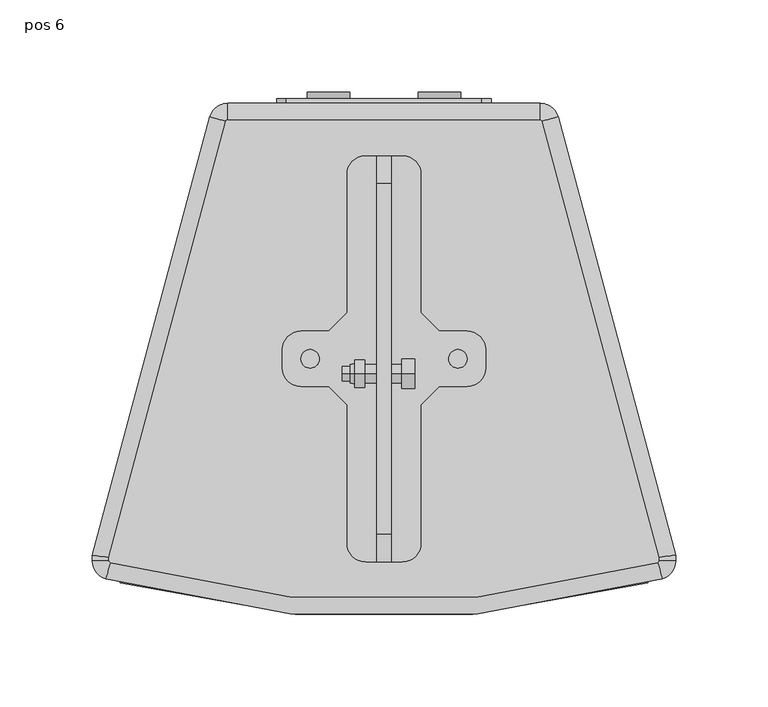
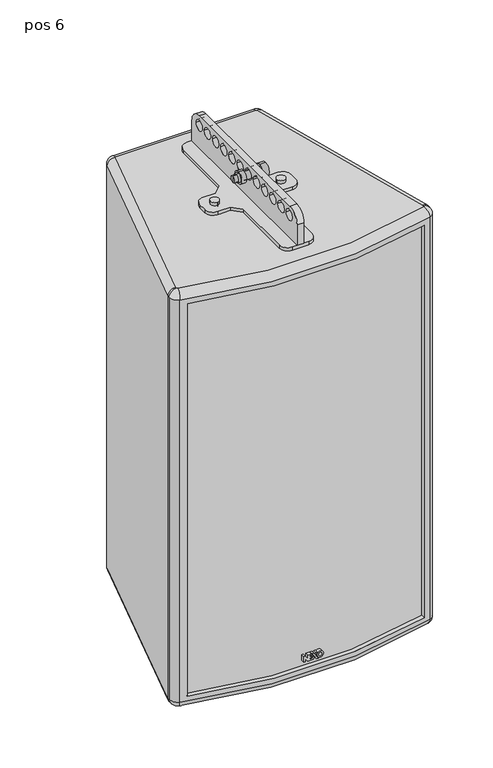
"""IFC4 building model written with IfcOpenShell, lengths in millimetres: proxy geometry, ePS10-WM330-BUMP-WVM : pos 6."""

from ifc_helpers import new_model, si_unit, point, frame, frame_2d, origin, place, context, project, spatial, polyline, circle_curve, ellipse_curve, trimmed, segment, composite_curve, outline, extrude, source, transform, mapped, element, save
from ifc_brep_helpers import plane_surface, cylinder_surface, revolved_surface, advanced_brep


def pos_6_8bae4bcd(model_context):
    return source(origin(), model_context, "Body", "SolidModel", [
        extrude(outline(composite_curve([segment(trimmed(circle_curve(frame_2d((-40.0511607, -316.4740772)), 5.0), [point((-45.0511607, -316.4740772))], [point((-35.0511607, -316.4740772))], False, "CARTESIAN"), True, "CONTINUOUS"), segment(trimmed(circle_curve(frame_2d((-40.0511607, -316.4740772)), 5.0), [point((-35.0511607, -316.4740772))], [point((-45.0511607, -316.4740772))], False, "CARTESIAN"), True, "CONTINUOUS")], self_intersect=False)), frame((0.0, 0.0, -97.9639301), z_axis=(0.0, 0.0, 1.0), x_axis=(1.0, 0.0, 0.0)), (0.0, 0.0, 1.0), 4.0),
        extrude(outline(composite_curve([segment(trimmed(circle_curve(frame_2d((40.0511607, -316.4740772)), 5.0), [point((45.0511607, -316.4740772))], [point((35.0511607, -316.4740772))], False, "CARTESIAN"), True, "CONTINUOUS"), segment(trimmed(circle_curve(frame_2d((40.0511607, -316.4740772)), 5.0), [point((35.0511607, -316.4740772))], [point((45.0511607, -316.4740772))], False, "CARTESIAN"), True, "CONTINUOUS")], self_intersect=False)), frame((0.0, 0.0, -97.9639301), z_axis=(0.0, 0.0, 1.0), x_axis=(1.0, 0.0, 0.0)), (0.0, 0.0, 1.0), 4.0),
        extrude(outline(composite_curve([segment(trimmed(circle_curve(frame_2d((-221.4740772, -71.9639301)), 15.0), [point((-221.4740772, -56.9639301))], [point((-206.4740772, -71.9639301))], False, "CARTESIAN"), True, "CONTINUOUS"), segment(polyline([(-206.4740772, -71.9639301), (-206.4740772, -97.9639301), (-426.4740772, -97.9639301), (-426.4740772, -71.9639301)]), True, "CONTINUOUS"), segment(trimmed(circle_curve(frame_2d((-411.4740772, -71.9639301)), 15.0), [point((-426.4740772, -71.9639301))], [point((-411.4740772, -56.9639301))], False, "CARTESIAN"), True, "CONTINUOUS"), segment(polyline([(-411.4740772, -56.9639301), (-221.4740772, -56.9639301)]), True, "CONTINUOUS")], self_intersect=False), holes=[composite_curve([segment(trimmed(circle_curve(frame_2d((-324.5, -68.9639301)), 6.5), [point((-331.0, -68.9639301))], [point((-318.0, -68.9639301))], True, "CARTESIAN"), True, "CONTINUOUS"), segment(trimmed(circle_curve(frame_2d((-324.5, -68.9639301)), 6.5), [point((-318.0, -68.9639301))], [point((-331.0, -68.9639301))], True, "CARTESIAN"), True, "CONTINUOUS")], self_intersect=False), composite_curve([segment(trimmed(circle_curve(frame_2d((-341.578125, -68.9639301)), 6.5), [point((-348.078125, -68.9639301))], [point((-335.078125, -68.9639301))], True, "CARTESIAN"), True, "CONTINUOUS"), segment(trimmed(circle_curve(frame_2d((-341.578125, -68.9639301)), 6.5), [point((-335.078125, -68.9639301))], [point((-348.078125, -68.9639301))], True, "CARTESIAN"), True, "CONTINUOUS")], self_intersect=False), composite_curve([segment(trimmed(circle_curve(frame_2d((-358.65625, -68.9639301)), 6.5), [point((-365.15625, -68.9639301))], [point((-352.15625, -68.9639301))], True, "CARTESIAN"), True, "CONTINUOUS"), segment(trimmed(circle_curve(frame_2d((-358.65625, -68.9639301)), 6.5), [point((-352.15625, -68.9639301))], [point((-365.15625, -68.9639301))], True, "CARTESIAN"), True, "CONTINUOUS")], self_intersect=False), composite_curve([segment(trimmed(circle_curve(frame_2d((-375.734375, -68.9639301)), 6.5), [point((-382.234375, -68.9639301))], [point((-369.234375, -68.9639301))], True, "CARTESIAN"), True, "CONTINUOUS"), segment(trimmed(circle_curve(frame_2d((-375.734375, -68.9639301)), 6.5), [point((-369.234375, -68.9639301))], [point((-382.234375, -68.9639301))], True, "CARTESIAN"), True, "CONTINUOUS")], self_intersect=False), composite_curve([segment(trimmed(circle_curve(frame_2d((-392.8125, -68.9639301)), 6.5), [point((-399.3125, -68.9639301))], [point((-386.3125, -68.9639301))], True, "CARTESIAN"), True, "CONTINUOUS"), segment(trimmed(circle_curve(frame_2d((-392.8125, -68.9639301)), 6.5), [point((-386.3125, -68.9639301))], [point((-399.3125, -68.9639301))], True, "CARTESIAN"), True, "CONTINUOUS")], self_intersect=False), composite_curve([segment(trimmed(circle_curve(frame_2d((-409.890625, -68.9639301)), 6.5), [point((-416.390625, -68.9639301))], [point((-403.390625, -68.9639301))], True, "CARTESIAN"), True, "CONTINUOUS"), segment(trimmed(circle_curve(frame_2d((-409.890625, -68.9639301)), 6.5), [point((-403.390625, -68.9639301))], [point((-416.390625, -68.9639301))], True, "CARTESIAN"), True, "CONTINUOUS")], self_intersect=False), composite_curve([segment(trimmed(circle_curve(frame_2d((-307.3912413, -68.9639301)), 6.5), [point((-300.8912413, -68.9639301))], [point((-313.8912413, -68.9639301))], True, "CARTESIAN"), True, "CONTINUOUS"), segment(trimmed(circle_curve(frame_2d((-307.3912413, -68.9639301)), 6.5), [point((-313.8912413, -68.9639301))], [point((-300.8912413, -68.9639301))], True, "CARTESIAN"), True, "CONTINUOUS")], self_intersect=False), composite_curve([segment(trimmed(circle_curve(frame_2d((-290.3131163, -68.9639301)), 6.5), [point((-283.8131163, -68.9639301))], [point((-296.8131163, -68.9639301))], True, "CARTESIAN"), True, "CONTINUOUS"), segment(trimmed(circle_curve(frame_2d((-290.3131163, -68.9639301)), 6.5), [point((-296.8131163, -68.9639301))], [point((-283.8131163, -68.9639301))], True, "CARTESIAN"), True, "CONTINUOUS")], self_intersect=False), composite_curve([segment(trimmed(circle_curve(frame_2d((-273.2349913, -68.9639301)), 6.5), [point((-266.7349913, -68.9639301))], [point((-279.7349913, -68.9639301))], True, "CARTESIAN"), True, "CONTINUOUS"), segment(trimmed(circle_curve(frame_2d((-273.2349913, -68.9639301)), 6.5), [point((-279.7349913, -68.9639301))], [point((-266.7349913, -68.9639301))], True, "CARTESIAN"), True, "CONTINUOUS")], self_intersect=False), composite_curve([segment(trimmed(circle_curve(frame_2d((-256.1568663, -68.9639301)), 6.5), [point((-249.6568663, -68.9639301))], [point((-262.6568663, -68.9639301))], True, "CARTESIAN"), True, "CONTINUOUS"), segment(trimmed(circle_curve(frame_2d((-256.1568663, -68.9639301)), 6.5), [point((-262.6568663, -68.9639301))], [point((-249.6568663, -68.9639301))], True, "CARTESIAN"), True, "CONTINUOUS")], self_intersect=False), composite_curve([segment(trimmed(circle_curve(frame_2d((-239.0787413, -68.9639301)), 6.5), [point((-232.5787413, -68.9639301))], [point((-245.5787413, -68.9639301))], True, "CARTESIAN"), True, "CONTINUOUS"), segment(trimmed(circle_curve(frame_2d((-239.0787413, -68.9639301)), 6.5), [point((-245.5787413, -68.9639301))], [point((-232.5787413, -68.9639301))], True, "CARTESIAN"), True, "CONTINUOUS")], self_intersect=False), composite_curve([segment(trimmed(circle_curve(frame_2d((-222.0006163, -68.9639301)), 6.5), [point((-215.5006163, -68.9639301))], [point((-228.5006163, -68.9639301))], True, "CARTESIAN"), True, "CONTINUOUS"), segment(trimmed(circle_curve(frame_2d((-222.0006163, -68.9639301)), 6.5), [point((-228.5006163, -68.9639301))], [point((-215.5006163, -68.9639301))], True, "CARTESIAN"), True, "CONTINUOUS")], self_intersect=False)]), frame((-4.0, 0.0, 0.0), z_axis=(1.0, 0.0, 0.0), x_axis=(0.0, 1.0, 0.0)), (0.0, 0.0, 1.0), 8.0),
        extrude(outline(composite_curve([segment(polyline([(-20.0, -291.4740772), (-20.0, -216.4740772)]), True, "CONTINUOUS"), segment(trimmed(circle_curve(frame_2d((-10.0, -216.4740772)), 10.0), [point((-20.0, -216.4740772))], [point((-10.0, -206.4740772))], False, "CARTESIAN"), True, "CONTINUOUS"), segment(polyline([(-10.0, -206.4740772), (10.0, -206.4740772)]), True, "CONTINUOUS"), segment(trimmed(circle_curve(frame_2d((10.0, -216.4740772)), 10.0), [point((10.0, -206.4740772))], [point((20.0, -216.4740772))], False, "CARTESIAN"), True, "CONTINUOUS"), segment(polyline([(20.0, -216.4740772), (20.0, -291.4740772), (30.0, -301.4740772), (45.0, -301.4740772)]), True, "CONTINUOUS"), segment(trimmed(circle_curve(frame_2d((45.0, -311.4740772)), 10.0), [point((45.0, -301.4740772))], [point((55.0, -311.4740772))], False, "CARTESIAN"), True, "CONTINUOUS"), segment(polyline([(55.0, -311.4740772), (55.0, -321.4740772)]), True, "CONTINUOUS"), segment(trimmed(circle_curve(frame_2d((45.0, -321.4740772)), 10.0), [point((55.0, -321.4740772))], [point((45.0, -331.4740772))], False, "CARTESIAN"), True, "CONTINUOUS"), segment(polyline([(45.0, -331.4740772), (30.0, -331.4740772), (20.0, -341.4740772), (20.0, -416.4740772)]), True, "CONTINUOUS"), segment(trimmed(circle_curve(frame_2d((10.0, -416.4740772)), 10.0), [point((20.0, -416.4740772))], [point((10.0, -426.4740772))], False, "CARTESIAN"), True, "CONTINUOUS"), segment(polyline([(10.0, -426.4740772), (-10.0, -426.4740772)]), True, "CONTINUOUS"), segment(trimmed(circle_curve(frame_2d((-10.0, -416.4740772)), 10.0), [point((-10.0, -426.4740772))], [point((-20.0, -416.4740772))], False, "CARTESIAN"), True, "CONTINUOUS"), segment(polyline([(-20.0, -416.4740772), (-20.0, -341.4740772), (-30.0, -331.4740772), (-45.0, -331.4740772)]), True, "CONTINUOUS"), segment(trimmed(circle_curve(frame_2d((-45.0, -321.4740772)), 10.0), [point((-45.0, -331.4740772))], [point((-55.0, -321.4740772))], False, "CARTESIAN"), True, "CONTINUOUS"), segment(polyline([(-55.0, -321.4740772), (-55.0, -311.4740772)]), True, "CONTINUOUS"), segment(trimmed(circle_curve(frame_2d((-45.0, -311.4740772)), 10.0), [point((-55.0, -311.4740772))], [point((-45.0, -301.4740772))], False, "CARTESIAN"), True, "CONTINUOUS"), segment(polyline([(-45.0, -301.4740772), (-30.0, -301.4740772), (-20.0, -291.4740772)]), True, "CONTINUOUS")], self_intersect=False), holes=[composite_curve([segment(trimmed(circle_curve(frame_2d((-40.0102651, -316.4740772)), 3.0), [point((-43.0102651, -316.4740772))], [point((-37.0102651, -316.4740772))], True, "CARTESIAN"), True, "CONTINUOUS"), segment(trimmed(circle_curve(frame_2d((-40.0102651, -316.4740772)), 3.0), [point((-37.0102651, -316.4740772))], [point((-43.0102651, -316.4740772))], True, "CARTESIAN"), True, "CONTINUOUS")], self_intersect=False), composite_curve([segment(trimmed(circle_curve(frame_2d((40.0102651, -316.4740772)), 3.0), [point((43.0102651, -316.4740772))], [point((37.0102651, -316.4740772))], True, "CARTESIAN"), True, "CONTINUOUS"), segment(trimmed(circle_curve(frame_2d((40.0102651, -316.4740772)), 3.0), [point((37.0102651, -316.4740772))], [point((43.0102651, -316.4740772))], True, "CARTESIAN"), True, "CONTINUOUS")], self_intersect=False)]), frame((0.0, 0.0, -101.9639301), z_axis=(0.0, 0.0, 1.0), x_axis=(1.0, 0.0, 0.0)), (0.0, 0.0, 1.0), 4.0),
        extrude(outline(composite_curve([segment(trimmed(circle_curve(frame_2d((-607.1938211, 8.0750207)), 3.9406238), [point((-607.1938211, 4.1343969))], [point((-607.1938211, 12.0156446))], False, "CARTESIAN"), True, "CONTINUOUS"), segment(trimmed(circle_curve(frame_2d((-607.1938211, 8.0750207)), 3.9406238), [point((-607.1938211, 12.0156446))], [point((-607.1938211, 4.1343969))], False, "CARTESIAN"), True, "CONTINUOUS")], self_intersect=False), holes=[composite_curve([segment(trimmed(circle_curve(frame_2d((-607.1938211, 8.0750207)), 2.0681078), [point((-607.1938211, 6.0069129))], [point((-607.1938211, 10.1431285))], True, "CARTESIAN"), True, "CONTINUOUS"), segment(trimmed(circle_curve(frame_2d((-607.1938211, 8.0750207)), 2.0681078), [point((-607.1938211, 10.1431285))], [point((-607.1938211, 6.0069129))], True, "CARTESIAN"), True, "CONTINUOUS")], self_intersect=False)]), frame((0.0, -453.9740772, 0.0), z_axis=(0.0, 1.0, 0.0), x_axis=(0.0, 0.0, 1.0)), (0.0, 0.0, 1.0), 5.0),
        extrude(outline(polyline([(-603.5229831, -11.9363528), (-610.8027502, -11.9363528), (-610.8027502, -10.0439855), (-606.63742, -10.0439855), (-610.8027502, -7.2688886), (-610.8027502, -0.4179789), (-608.9277791, 0.9005934), (-607.3282457, -0.1627837), (-609.2000858, -1.5323263), (-609.2000858, -4.5659556), (-607.9457984, -4.5659556), (-607.9457984, -2.2828427), (-606.3430682, -2.2828427), (-606.3430682, -4.5659556), (-605.1265649, -4.5659556), (-605.1265649, -2.1588809), (-604.3265649, -2.1588809), (-603.5238347, -2.6925396), (-603.5238347, -6.9609157), (-607.9738907, -6.9706073), (-603.5229831, -9.9098734), (-603.5229831, -11.9363528)])), frame((0.0, -453.9740772, 0.0), z_axis=(0.0, 1.0, 0.0), x_axis=(0.0, 0.0, 1.0)), (0.0, 0.0, 1.0), 5.0),
        extrude(outline(polyline([(-603.5229831, -2.0512245), (-611.7639301, 3.4273947), (-611.7639301, 5.6205974), (-603.5229831, 0.1419782), (-603.5229831, -2.0512245)])), frame((0.0, -453.9740772, 0.0), z_axis=(0.0, 1.0, 0.0), x_axis=(0.0, 0.0, 1.0)), (0.0, 0.0, 1.0), 5.0),
        extrude(outline(polyline([(-603.5229831, 4.6894095), (-603.5229831, 2.362619), (-604.7909401, 1.6148247), (-606.421834, 2.6990504), (-603.5229831, 4.6894095)])), frame((0.0, -453.9740772, 0.0), z_axis=(0.0, 1.0, 0.0), x_axis=(0.0, 0.0, 1.0)), (0.0, 0.0, 1.0), 5.0),
        extrude(outline(composite_curve([segment(trimmed(circle_curve(frame_2d((-595.4639301, -30.0)), 11.4515227), [point((-595.4639301, -18.5484773))], [point((-595.4639301, -41.4515227))], False, "CARTESIAN"), True, "CONTINUOUS"), segment(trimmed(circle_curve(frame_2d((-595.4639301, -30.0)), 11.4515227), [point((-595.4639301, -41.4515227))], [point((-595.4639301, -18.5484773))], False, "CARTESIAN"), True, "CONTINUOUS")], self_intersect=False), holes=[composite_curve([segment(trimmed(circle_curve(frame_2d((-595.4639301, -30.0)), 5.0), [point((-595.4639301, -25.0))], [point((-595.4639301, -35.0))], True, "CARTESIAN"), True, "CONTINUOUS"), segment(trimmed(circle_curve(frame_2d((-595.4639301, -30.0)), 5.0), [point((-595.4639301, -35.0))], [point((-595.4639301, -25.0))], True, "CARTESIAN"), True, "CONTINUOUS")], self_intersect=False)]), frame((0.0, -175.3793417, 0.0), z_axis=(0.0, 1.0, 0.0), x_axis=(0.0, 0.0, 1.0)), (0.0, 0.0, 1.0), 3.4052646),
        extrude(outline(composite_curve([segment(trimmed(circle_curve(frame_2d((-595.4639301, 30.0)), 11.4515227), [point((-595.4639301, 41.4515227))], [point((-595.4639301, 18.5484773))], False, "CARTESIAN"), True, "CONTINUOUS"), segment(trimmed(circle_curve(frame_2d((-595.4639301, 30.0)), 11.4515227), [point((-595.4639301, 18.5484773))], [point((-595.4639301, 41.4515227))], False, "CARTESIAN"), True, "CONTINUOUS")], self_intersect=False), holes=[composite_curve([segment(trimmed(circle_curve(frame_2d((-595.4639301, 30.0)), 5.0), [point((-595.4639301, 35.0))], [point((-595.4639301, 25.0))], True, "CARTESIAN"), True, "CONTINUOUS"), segment(trimmed(circle_curve(frame_2d((-595.4639301, 30.0)), 5.0), [point((-595.4639301, 25.0))], [point((-595.4639301, 35.0))], True, "CARTESIAN"), True, "CONTINUOUS")], self_intersect=False)]), frame((0.0, -175.3793417, 0.0), z_axis=(0.0, 1.0, 0.0), x_axis=(0.0, 0.0, 1.0)), (0.0, 0.0, 1.0), 3.4052646),
        extrude(outline(composite_curve([segment(polyline([(-576.4639301, 53.0), (-576.4639301, -53.0)]), True, "CONTINUOUS"), segment(trimmed(circle_curve(frame_2d((-581.4639301, -53.0)), 5.0), [point((-576.4639301, -53.0))], [point((-581.4639301, -58.0))], False, "CARTESIAN"), True, "CONTINUOUS"), segment(polyline([(-581.4639301, -58.0), (-609.4639301, -58.0)]), True, "CONTINUOUS"), segment(trimmed(circle_curve(frame_2d((-609.4639301, -53.0)), 5.0), [point((-609.4639301, -58.0))], [point((-614.4639301, -53.0))], False, "CARTESIAN"), True, "CONTINUOUS"), segment(polyline([(-614.4639301, -53.0), (-614.4639301, 53.0)]), True, "CONTINUOUS"), segment(trimmed(circle_curve(frame_2d((-609.4639301, 53.0)), 5.0), [point((-614.4639301, 53.0))], [point((-609.4639301, 58.0))], False, "CARTESIAN"), True, "CONTINUOUS"), segment(polyline([(-609.4639301, 58.0), (-581.4639301, 58.0)]), True, "CONTINUOUS"), segment(trimmed(circle_curve(frame_2d((-581.4639301, 53.0)), 5.0), [point((-581.4639301, 58.0))], [point((-576.4639301, 53.0))], False, "CARTESIAN"), True, "CONTINUOUS")], self_intersect=False)), frame((0.0, -177.8793417, 0.0), z_axis=(0.0, 1.0, 0.0), x_axis=(0.0, 0.0, 1.0)), (0.0, 0.0, 1.0), 2.5),
        advanced_brep(
        [(0.0, -321.4740772, -105.9639301), (0.0, -311.4740772, -105.9639301), (0.0, -311.4740772, -101.9639301), (0.0, -321.4740772, -101.9639301), (40.0, -321.4740772, -105.9639301), (40.0, -311.4740772, -105.9639301), (40.0, -311.4740772, -101.9639301), (40.0, -321.4740772, -101.9639301), (-143.0, -437.8746266, -116.9639301), (-143.0, -432.6907902, -116.9639301), (143.0, -432.6907902, -116.9639301), (143.0, -437.8746266, -116.9639301), (143.0, -437.8746266, -617.9639301), (143.0, -432.6907902, -617.9639301), (-143.0, -432.6907902, -617.9639301), (-143.0, -437.8746266, -617.9639301), (0.0, -311.4740772, -628.9639301), (0.0, -321.4740772, -628.9639301), (-40.0, -311.4740772, -628.9639301), (-40.0, -321.4740772, -628.9639301), (40.0, -311.4740772, -628.9639301), (40.0, -321.4740772, -628.9639301), (-158.0, -422.9045543, -110.9556534), (-94.3316806, -185.2911513, -110.9556534), (-94.3316806, -185.2911513, -623.9639301), (-158.0, -422.9045543, -623.9639301), (-158.0, -426.0881594, -110.9556534), (-158.0, -426.0881594, -623.9639301), (150.7700973, -435.6968305, -110.9556534), (-150.7700973, -435.6968305, -110.9556534), (-150.7700973, -435.6968305, -623.9639361), (150.7700973, -435.6968305, -623.9639301), (158.0, -422.9045543, -110.9556534), (158.0, -426.0881594, -110.9556534), (158.0, -426.0881594, -623.9639301), (158.0, -422.9045543, -623.9639301), (94.3316806, -185.2911513, -110.9556534), (94.3316806, -185.2911513, -623.9639301), (84.6724223, -177.8793417, -110.9556534), (84.6724223, -177.8793417, -623.9639301), (-40.6566026, -183.9740772, -297.4639301), (-29.3432823, -183.9740772, -297.4639301), (-29.3432823, -177.8793417, -297.4639301), (-40.6566026, -177.8793417, -297.4639301), (-149.0082766, -426.0881594, -101.9639301), (-148.2793024, -427.0569793, -101.9639301), (148.2793024, -427.0569793, -101.9639301), (149.0082766, -426.0881594, -101.9639301), (149.0082766, -424.0883371, -101.9639301), (85.6463427, -187.6183805, -101.9639301), (84.6724223, -186.8710651, -101.9639301), (-84.6724223, -177.8793417, -110.9556534), (-84.6724223, -186.8710651, -101.9639301), (-85.6463427, -187.6183805, -101.9639301), (-149.0082766, -424.0883371, -101.9639301), (-40.0, -321.4740772, -101.9639301), (-40.0, -311.4740772, -101.9639301), (84.6724223, -186.8793417, -632.9639301), (85.6383481, -187.6205227, -632.9639301), (149.0, -424.0894268, -632.9639301), (149.0, -426.0881594, -632.9639301), (148.2770097, -427.0490265, -632.9639301), (-148.2770097, -427.0490265, -632.9639301), (-149.0, -426.0881594, -632.9639301), (-149.0, -424.0894268, -632.9639301), (-85.6383481, -187.6205227, -632.9639301), (-84.6724223, -186.8793417, -632.9639301), (0.0, -311.4740772, -632.9639301), (0.0, -321.4740772, -632.9639301), (-40.0, -311.4740772, -632.9639301), (-40.0, -321.4740772, -632.9639301), (40.0, -311.4740772, -632.9639301), (40.0, -321.4740772, -632.9639301), (-40.0, -311.4740772, -105.9639301), (-40.0, -321.4740772, -105.9639301), (40.6567177, -183.9740772, -367.4639301), (29.3433974, -183.9740772, -367.4639301), (-29.3432823, -183.9740772, -367.4639301), (-40.6566026, -183.9740772, -367.4639301), (29.3433974, -177.8793417, -367.4639301), (40.6567177, -177.8793417, -367.4639301), (-84.6724223, -177.8793417, -623.9639301), (-29.3432823, -177.8793417, -367.4639301), (-40.6566026, -177.8793417, -367.4639301)],
        [
            (0, 1, circle_curve(frame((0.0, -316.4740772, -105.9639301), z_axis=(0.0, 0.0, -1.0), x_axis=(0.0, -1.0, 0.0)), 5.0)),
            (1, 2),
            (2, 3, circle_curve(frame((0.0, -316.4740772, -101.9639301), z_axis=(0.0, 0.0, 1.0), x_axis=(0.0, -1.0, 0.0)), 5.0)),
            (3, 0),
            (4, 5, circle_curve(frame((40.0, -316.4740772, -105.9639301), z_axis=(0.0, 0.0, -1.0), x_axis=(0.0, -1.0, 0.0)), 5.0)),
            (5, 6),
            (6, 7, circle_curve(frame((40.0, -316.4740772, -101.9639301), z_axis=(0.0, 0.0, 1.0), x_axis=(0.0, -1.0, 0.0)), 5.0)),
            (7, 4),
            (8, 9),
            (9, 10, circle_curve(frame((0.0, 87.2812942, -116.9639301), z_axis=(0.0, 0.0, 1.0), x_axis=(1.0, 0.0, 0.0)), 539.277265)),
            (10, 11),
            (11, 8, circle_curve(frame((0.0, 87.2812942, -116.9639301), z_axis=(0.0, 0.0, -1.0), x_axis=(1.0, 0.0, 0.0)), 544.277265)),
            (12, 13),
            (13, 14, circle_curve(frame((0.0, 87.2812942, -617.9639301), z_axis=(0.0, 0.0, -1.0), x_axis=(1.0, 0.0, 0.0)), 539.277265)),
            (14, 15),
            (15, 12, circle_curve(frame((0.0, 87.2812942, -617.9639301), z_axis=(0.0, 0.0, 1.0), x_axis=(1.0, 0.0, 0.0)), 544.277265)),
            (16, 17, circle_curve(frame((0.0, -316.4740772, -628.9639301), z_axis=(0.0, 0.0, -1.0), x_axis=(0.0, -1.0, 0.0)), 5.0)),
            (17, 16, circle_curve(frame((0.0, -316.4740772, -628.9639301), z_axis=(0.0, 0.0, -1.0), x_axis=(0.0, -1.0, 0.0)), 5.0)),
            (18, 19, circle_curve(frame((-40.0, -316.4740772, -628.9639301), z_axis=(0.0, 0.0, -1.0), x_axis=(0.0, -1.0, 0.0)), 5.0)),
            (19, 18, circle_curve(frame((-40.0, -316.4740772, -628.9639301), z_axis=(0.0, 0.0, -1.0), x_axis=(0.0, -1.0, 0.0)), 5.0)),
            (20, 21, circle_curve(frame((40.0, -316.4740772, -628.9639301), z_axis=(0.0, 0.0, -1.0), x_axis=(0.0, -1.0, 0.0)), 5.0)),
            (21, 20, circle_curve(frame((40.0, -316.4740772, -628.9639301), z_axis=(0.0, 0.0, -1.0), x_axis=(0.0, -1.0, 0.0)), 5.0)),
            (22, 23),
            (23, 24),
            (24, 25),
            (25, 22),
            (26, 22),
            (25, 27),
            (27, 26),
            (28, 29, circle_curve(frame((0.0, 87.2812942, -110.9556534), z_axis=(0.0, 0.0, -1.0), x_axis=(1.0, 0.0, 0.0)), 544.277265)),
            (29, 30),
            (30, 31, circle_curve(frame((0.0, 87.2812942, -623.9639301), z_axis=(0.0, 0.0, 1.0), x_axis=(1.0, 0.0, 0.0)), 544.277265)),
            (31, 28),
            (11, 12),
            (15, 8),
            (32, 33),
            (33, 34),
            (34, 35),
            (35, 32),
            (36, 32),
            (35, 37),
            (37, 36),
            (38, 36, circle_curve(frame((84.6724223, -187.8793417, -110.9556534), z_axis=(0.0, 0.0, -1.0), x_axis=(1.0, 0.0, 0.0)), 10.0)),
            (37, 39, circle_curve(frame((84.6724223, -187.8793417, -623.9639301), z_axis=(0.0, 0.0, 1.0), x_axis=(1.0, 0.0, 0.0)), 10.0)),
            (39, 38),
            (29, 26, circle_curve(frame((-148.0, -426.0881594, -110.9556534), z_axis=(0.0, 0.0, -1.0), x_axis=(1.0, 0.0, 0.0)), 10.0)),
            (27, 30, circle_curve(frame((-148.0, -426.0881594, -623.9639301), z_axis=(0.0, 0.0, 1.0), x_axis=(1.0, 0.0, 0.0)), 10.0)),
            (33, 28, circle_curve(frame((148.0, -426.0881594, -110.9556534), z_axis=(0.0, 0.0, -1.0), x_axis=(1.0, 0.0, 0.0)), 10.0)),
            (31, 34, circle_curve(frame((148.0, -426.0881594, -623.9639301), z_axis=(0.0, 0.0, 1.0), x_axis=(1.0, 0.0, 0.0)), 10.0)),
            (40, 41, circle_curve(frame((-34.9999424, -183.9740772, -297.4639301), z_axis=(0.0, -1.0, 0.0), x_axis=(-1.0, 0.0, 0.0)), 5.6566602)),
            (41, 42),
            (42, 43, circle_curve(frame((-34.9999424, -177.8793417, -297.4639301), z_axis=(0.0, 1.0, 0.0), x_axis=(-1.0, 0.0, 0.0)), 5.6566602)),
            (43, 40),
            (41, 40, circle_curve(frame((-34.9999424, -183.9740772, -297.4639301), z_axis=(0.0, -1.0, 0.0), x_axis=(-1.0, 0.0, 0.0)), 5.6566602)),
            (43, 42, circle_curve(frame((-34.9999424, -177.8793417, -297.4639301), z_axis=(0.0, 1.0, 0.0), x_axis=(-1.0, 0.0, 0.0)), 5.6566602)),
            (10, 13),
            (44, 26, circle_curve(frame((-149.0082766, -426.0881594, -110.9556534), z_axis=(0.0, -1.0, 0.0), x_axis=(1.0, 0.0, 0.0)), 8.9917234)),
            (29, 45, circle_curve(frame((-148.2793024, -427.0569793, -110.9556534), z_axis=(-0.9608671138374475, 0.27700972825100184, 0.0), x_axis=(0.27700972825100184, 0.9608671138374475, 0.0)), 8.9917234)),
            (45, 44, circle_curve(frame((-148.0, -426.0881594, -101.9639301), z_axis=(0.0, 0.0, -1.0), x_axis=(-1.0, 0.0, 0.0)), 1.0082766)),
            (28, 46, circle_curve(frame((148.2793024, -427.0569793, -110.9556534), z_axis=(-0.9608671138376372, -0.2770097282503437, 0.0), x_axis=(-0.2770097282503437, 0.9608671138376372, 0.0)), 8.9917234)),
            (46, 45, circle_curve(frame((0.0, 87.2812942, -101.9639301), z_axis=(0.0, 0.0, -1.0), x_axis=(-0.27700972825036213, -0.9608671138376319, 0.0)), 535.2855417)),
            (33, 47, circle_curve(frame((149.0082766, -426.0881594, -110.9556534), z_axis=(0.0, -1.0, 0.0), x_axis=(-1.0, 0.0, 0.0)), 8.9917234)),
            (47, 46, circle_curve(frame((148.0, -426.0881594, -101.9639301), z_axis=(0.0, 0.0, -1.0), x_axis=(0.2770097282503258, -0.9608671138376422, 0.0)), 1.0082766)),
            (32, 48, ellipse_curve(frame((149.0082766, -424.0883371, -110.9556534), z_axis=(0.13052619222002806, -0.9914448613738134, 0.0), x_axis=(0.9914448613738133, 0.13052619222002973, 0.0)), 9.0693126, 8.9917234)),
            (48, 47),
            (36, 49, circle_curve(frame((85.6463427, -187.6183805, -110.9556534), z_axis=(0.25881904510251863, -0.9659258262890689, 0.0), x_axis=(-0.9659258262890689, -0.25881904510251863, 0.0)), 8.9917234)),
            (49, 48),
            (38, 50, circle_curve(frame((84.6724223, -186.8710651, -110.9556534), z_axis=(1.0, 0.0, 0.0), x_axis=(0.0, -1.0, 0.0)), 8.9917234)),
            (50, 49, circle_curve(frame((84.6724223, -187.8793417, -101.9639301), z_axis=(0.0, 0.0, -1.0), x_axis=(0.9659258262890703, 0.25881904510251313, 0.0)), 1.0082766)),
            (51, 52, circle_curve(frame((-84.6724223, -186.8710651, -110.9556534), z_axis=(1.0, 0.0, 0.0), x_axis=(0.0, -1.0, 0.0)), 8.9917234)),
            (52, 50),
            (38, 51),
            (52, 53, circle_curve(frame((-84.6724223, -187.8793417, -101.9639301), z_axis=(0.0, 0.0, 1.0), x_axis=(0.0, 1.0, 0.0)), 1.0082766)),
            (53, 54),
            (54, 44),
            (2, 3, circle_curve(frame((0.0, -316.4740772, -101.9639301), z_axis=(0.0, 0.0, -1.0), x_axis=(0.0, -1.0, 0.0)), 5.0)),
            (55, 56, circle_curve(frame((-40.0, -316.4740772, -101.9639301), z_axis=(0.0, 0.0, -1.0), x_axis=(0.0, -1.0, 0.0)), 5.0)),
            (56, 55, circle_curve(frame((-40.0, -316.4740772, -101.9639301), z_axis=(0.0, 0.0, -1.0), x_axis=(0.0, -1.0, 0.0)), 5.0)),
            (6, 7, circle_curve(frame((40.0, -316.4740772, -101.9639301), z_axis=(0.0, 0.0, -1.0), x_axis=(0.0, -1.0, 0.0)), 5.0)),
            (57, 58, circle_curve(frame((84.6724223, -187.8793417, -632.9639301), z_axis=(0.0, 0.0, -1.0), x_axis=(0.0, 1.0, 0.0)), 1.0)),
            (58, 59),
            (59, 60),
            (60, 61, circle_curve(frame((148.0, -426.0881594, -632.9639301), z_axis=(0.0, 0.0, -1.0), x_axis=(1.0, 0.0, 0.0)), 1.0)),
            (61, 62, circle_curve(frame((0.0, 87.2812942, -632.9639301), z_axis=(0.0, 0.0, -1.0), x_axis=(0.277009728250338, -0.9608671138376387, 0.0)), 535.277265)),
            (62, 63, circle_curve(frame((-148.0, -426.0881594, -632.9639301), z_axis=(0.0, 0.0, -1.0), x_axis=(-0.2770097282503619, -0.960867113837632, 0.0)), 1.0)),
            (63, 64),
            (64, 65),
            (65, 66, circle_curve(frame((-84.6724223, -187.8793417, -632.9639301), z_axis=(0.0, 0.0, -1.0), x_axis=(-0.9659258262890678, 0.25881904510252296, 0.0)), 1.0)),
            (66, 57),
            (67, 68, circle_curve(frame((0.0, -316.4740772, -632.9639301), z_axis=(0.0, 0.0, 1.0), x_axis=(0.0, -1.0, 0.0)), 5.0)),
            (68, 67, circle_curve(frame((0.0, -316.4740772, -632.9639301), z_axis=(0.0, 0.0, 1.0), x_axis=(0.0, -1.0, 0.0)), 5.0)),
            (69, 70, circle_curve(frame((-40.0, -316.4740772, -632.9639301), z_axis=(0.0, 0.0, 1.0), x_axis=(0.0, -1.0, 0.0)), 5.0)),
            (70, 69, circle_curve(frame((-40.0, -316.4740772, -632.9639301), z_axis=(0.0, 0.0, 1.0), x_axis=(0.0, -1.0, 0.0)), 5.0)),
            (71, 72, circle_curve(frame((40.0, -316.4740772, -632.9639301), z_axis=(0.0, 0.0, 1.0), x_axis=(0.0, -1.0, 0.0)), 5.0)),
            (72, 71, circle_curve(frame((40.0, -316.4740772, -632.9639301), z_axis=(0.0, 0.0, 1.0), x_axis=(0.0, -1.0, 0.0)), 5.0)),
            (0, 1, circle_curve(frame((0.0, -316.4740772, -105.9639301), z_axis=(0.0, 0.0, 1.0), x_axis=(0.0, -1.0, 0.0)), 5.0)),
            (73, 74, circle_curve(frame((-40.0, -316.4740772, -105.9639301), z_axis=(0.0, 0.0, 1.0), x_axis=(0.0, -1.0, 0.0)), 5.0)),
            (74, 73, circle_curve(frame((-40.0, -316.4740772, -105.9639301), z_axis=(0.0, 0.0, 1.0), x_axis=(0.0, -1.0, 0.0)), 5.0)),
            (4, 5, circle_curve(frame((40.0, -316.4740772, -105.9639301), z_axis=(0.0, 0.0, 1.0), x_axis=(0.0, -1.0, 0.0)), 5.0)),
            (17, 68),
            (67, 16),
            (19, 70),
            (69, 18),
            (21, 72),
            (71, 20),
            (75, 76, circle_curve(frame((35.0000576, -183.9740772, -367.4639301), z_axis=(0.0, 1.0, 0.0), x_axis=(-1.0, 0.0, 0.0)), 5.6566602)),
            (76, 75, circle_curve(frame((35.0000576, -183.9740772, -367.4639301), z_axis=(0.0, 1.0, 0.0), x_axis=(-1.0, 0.0, 0.0)), 5.6566602)),
            (77, 78, circle_curve(frame((-34.9999424, -183.9740772, -367.4639301), z_axis=(0.0, 1.0, 0.0), x_axis=(-1.0, 0.0, 0.0)), 5.6566602)),
            (78, 77, circle_curve(frame((-34.9999424, -183.9740772, -367.4639301), z_axis=(0.0, 1.0, 0.0), x_axis=(-1.0, 0.0, 0.0)), 5.6566602)),
            (76, 79),
            (79, 80, circle_curve(frame((35.0000576, -177.8793417, -367.4639301), z_axis=(0.0, 1.0, 0.0), x_axis=(-1.0, 0.0, 0.0)), 5.6566602)),
            (80, 75),
            (80, 79, circle_curve(frame((35.0000576, -177.8793417, -367.4639301), z_axis=(0.0, 1.0, 0.0), x_axis=(-1.0, 0.0, 0.0)), 5.6566602)),
            (39, 81),
            (81, 51),
            (82, 83, circle_curve(frame((-34.9999424, -177.8793417, -367.4639301), z_axis=(0.0, -1.0, 0.0), x_axis=(-1.0, 0.0, 0.0)), 5.6566602)),
            (83, 82, circle_curve(frame((-34.9999424, -177.8793417, -367.4639301), z_axis=(0.0, -1.0, 0.0), x_axis=(-1.0, 0.0, 0.0)), 5.6566602)),
            (9, 14),
            (23, 53, circle_curve(frame((-85.6463427, -187.6183805, -110.9556534), z_axis=(0.25881904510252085, 0.9659258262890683, 0.0), x_axis=(0.9659258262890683, -0.25881904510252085, 0.0)), 8.9917234)),
            (51, 23, circle_curve(frame((-84.6724223, -187.8793417, -110.9556534), z_axis=(0.0, 0.0, 1.0), x_axis=(0.0, 1.0, 0.0)), 10.0)),
            (22, 54, ellipse_curve(frame((-149.0082766, -424.0883371, -110.9556534), z_axis=(0.1305261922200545, 0.9914448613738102, 0.0), x_axis=(-0.9914448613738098, 0.13052619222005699, 0.0)), 9.0693126, 8.9917234)),
            (61, 31, circle_curve(frame((148.2770097, -427.0490265, -623.9639301), z_axis=(-0.9608671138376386, -0.2770097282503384, 0.0), x_axis=(-0.2770097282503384, 0.9608671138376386, 0.0)), 9.0)),
            (30, 62, circle_curve(frame((-148.2770097, -427.0490265, -623.9639301), z_axis=(0.9608671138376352, -0.27700972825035, 0.0), x_axis=(0.27700972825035, 0.9608671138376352, 0.0)), 9.0)),
            (27, 63, circle_curve(frame((-149.0, -426.0881594, -623.9639301), z_axis=(0.0, -1.0, 0.0), x_axis=(1.0, 0.0, 0.0)), 9.0)),
            (25, 64, ellipse_curve(frame((-149.0, -424.0894268, -623.9639301), z_axis=(-0.13052619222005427, -0.99144486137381, 0.0), x_axis=(-0.99144486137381, 0.13052619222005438, 0.0)), 9.0776606, 9.0)),
            (24, 65, circle_curve(frame((-85.6383481, -187.6205227, -623.9639301), z_axis=(-0.25881904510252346, -0.9659258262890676, 0.0), x_axis=(0.9659258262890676, -0.25881904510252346, 0.0)), 9.0)),
            (24, 81, circle_curve(frame((-84.6724223, -187.8793417, -623.9639301), z_axis=(0.0, 0.0, -1.0), x_axis=(-0.9659258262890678, 0.25881904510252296, 0.0)), 10.0)),
            (81, 66, circle_curve(frame((-84.6724223, -186.8793417, -623.9639301), z_axis=(-1.0000000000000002, 0.0, 0.0), x_axis=(0.0, -1.0000000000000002, 0.0)), 9.0)),
            (39, 57, circle_curve(frame((84.6724223, -186.8793417, -623.9639301), z_axis=(-1.0, 0.0, 0.0), x_axis=(0.0, -1.0, 0.0)), 9.0)),
            (73, 56),
            (55, 74),
            (78, 83),
            (82, 77),
            (37, 58, circle_curve(frame((85.6383481, -187.6205227, -623.9639301), z_axis=(-0.25881904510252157, 0.9659258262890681, 0.0), x_axis=(-0.9659258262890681, -0.25881904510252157, 0.0)), 9.0)),
            (35, 59, ellipse_curve(frame((149.0, -424.0894268, -623.9639301), z_axis=(-0.13052619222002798, 0.9914448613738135, 0.0), x_axis=(0.9914448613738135, 0.13052619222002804, 0.0)), 9.0776606, 9.0)),
            (34, 60, circle_curve(frame((149.0, -426.0881594, -623.9639301), z_axis=(0.0, 1.0, 0.0), x_axis=(-1.0, 0.0, 0.0)), 9.0)),
        ],
        [
            revolved_surface(polyline([(0.0, -321.4740772, -101.9639301), (0.0, -321.4740772, -105.9639301)]), (0.0, -316.4740772, -105.9639301), (0.0, 0.0, 1.0)),
            revolved_surface(polyline([(40.0, -321.4740772, -101.9639301), (40.0, -321.4740772, -105.9639301)]), (40.0, -316.4740772, -101.9639301), (0.0, 0.0, 1.0)),
            plane_surface(frame((143.0, -503.2339949, -116.9639301), z_axis=(0.0, 0.0, -1.0), x_axis=(0.0, 1.0, 0.0))),
            plane_surface(frame((143.0, -503.2339949, -617.9639301), z_axis=(0.0, 0.0, 1.0), x_axis=(0.0, -1.0, 0.0))),
            plane_surface(frame((0.0, -321.4740772, -628.9639301), z_axis=(0.0, 0.0, -1.0), x_axis=(1.0, 0.0, 0.0))),
            plane_surface(frame((-94.3316806, -185.2911513, -101.9639301), z_axis=(-0.9659258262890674, 0.25881904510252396, 0.0), x_axis=(0.0, 0.0, -1.0))),
            plane_surface(frame((-158.0, -422.9045543, -101.9639301), z_axis=(-1.0, 0.0, 0.0), x_axis=(0.0, 0.0, -1.0))),
            cylinder_surface(frame((0.0, 87.2812942, -632.9639301), z_axis=(0.0, 0.0, 1.0), x_axis=(1.0, 0.0, 0.0)), 544.277265),
            plane_surface(frame((158.0, -426.0881594, -101.9639301), z_axis=(1.0, 0.0, 0.0), x_axis=(0.0, 0.0, -1.0))),
            plane_surface(frame((158.0, -422.9045543, -101.9639301), z_axis=(0.965925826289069, 0.2588190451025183, 0.0), x_axis=(0.0, 0.0, -1.0))),
            cylinder_surface(frame((84.6724223, -187.8793417, -632.9639301), z_axis=(0.0, 0.0, 1.0), x_axis=(1.0, 0.0, 0.0)), 10.0),
            cylinder_surface(frame((-148.0, -426.0881594, -632.9639301), z_axis=(0.0, 0.0, 1.0), x_axis=(1.0, 0.0, 0.0)), 10.0),
            cylinder_surface(frame((148.0, -426.0881594, -632.9639301), z_axis=(0.0, 0.0, 1.0), x_axis=(1.0, 0.0, 0.0)), 10.0),
            revolved_surface(polyline([(-40.6566026, -177.8793417, -297.4639301), (-40.6566026, -183.9740772, -297.4639301)]), (-34.9999424, -171.9740772, -297.4639301), (0.0, 1.0, 0.0)),
            plane_surface(frame((143.0, -437.8746266, -116.9639301), z_axis=(-1.0, 0.0, 0.0), x_axis=(0.0, 0.0, -1.0))),
            revolved_surface(trimmed(ellipse_curve(frame((-149.0082766, -426.0881594, -110.9556534), z_axis=(0.0, 1.0, 0.0), x_axis=(1.0, 0.0, 0.0)), 8.9917234, 8.9917234), [point((-158.0, -426.0881594, -110.9556534))], [point((-149.0082766, -426.0881594, -101.9639301))], True, "CARTESIAN"), (-148.0, -426.0881594, -101.9639301), (0.0, 0.0, 1.0)),
            revolved_surface(trimmed(ellipse_curve(frame((-148.2793024, -427.0569793, -110.9556534), z_axis=(-0.960867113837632, 0.27700972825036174, 0.0), x_axis=(0.27700972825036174, 0.960867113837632, 0.0)), 8.9917234, 8.9917234), [point((-150.7700973, -435.6968305, -110.9556534))], [point((-148.2793024, -427.0569793, -101.9639301))], True, "CARTESIAN"), (0.0, 87.2812942, -101.9639301), (0.0, 0.0, 1.0)),
            revolved_surface(trimmed(ellipse_curve(frame((148.2793024, -427.0569793, -110.9556534), z_axis=(-0.9608671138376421, -0.2770097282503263, 0.0), x_axis=(-0.2770097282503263, 0.9608671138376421, 0.0)), 8.9917234, 8.9917234), [point((150.7700973, -435.6968305, -110.9556534))], [point((148.2793024, -427.0569793, -101.9639301))], True, "CARTESIAN"), (148.0, -426.0881594, -101.9639301), (0.0, 0.0, 1.0)),
            cylinder_surface(frame((149.0082766, -426.0881594, -110.9556534), z_axis=(0.0, 1.0, 0.0), x_axis=(-1.0, 0.0, 0.0)), 8.9917234),
            cylinder_surface(frame((149.3146622, -425.2317835, -110.9556534), z_axis=(-0.25881904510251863, 0.9659258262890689, 0.0), x_axis=(-0.9659258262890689, -0.25881904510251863, 0.0)), 8.9917234),
            revolved_surface(trimmed(ellipse_curve(frame((85.6463427, -187.6183805, -110.9556534), z_axis=(0.25881904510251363, -0.9659258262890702, 0.0), x_axis=(-0.9659258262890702, -0.25881904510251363, 0.0)), 8.9917234, 8.9917234), [point((94.3316806, -185.2911513, -110.9556534))], [point((85.6463427, -187.6183805, -101.9639301))], True, "CARTESIAN"), (84.6724223, -187.8793417, -101.9639301), (0.0, 0.0, 1.0)),
            cylinder_surface(frame((84.6724223, -186.8710651, -110.9556534), z_axis=(-1.0, 0.0, 0.0), x_axis=(0.0, -1.0, 0.0)), 8.9917234),
            plane_surface(frame((-85.0560858, -177.8793417, -101.9639301), z_axis=(0.0, 0.0, 1.0), x_axis=(-1.0, 0.0, 0.0))),
            plane_surface(frame((-85.0560858, -177.8793417, -632.9639301), z_axis=(0.0, 0.0, -1.0), x_axis=(1.0, 0.0, 0.0))),
            plane_surface(frame((0.0, -321.4740772, -105.9639301), z_axis=(0.0, 0.0, 1.0), x_axis=(-1.0, 0.0, 0.0))),
            revolved_surface(polyline([(0.0, -321.4740772, -628.9639301), (0.0, -321.4740772, -632.9639301)]), (0.0, -316.4740772, -636.9639301), (0.0, 0.0, 1.0)),
            revolved_surface(polyline([(-40.0, -321.4740772, -628.9639301), (-40.0, -321.4740772, -632.9639301)]), (-40.0, -316.4740772, -632.9639301), (0.0, 0.0, 1.0)),
            revolved_surface(polyline([(40.0, -321.4740772, -628.9639301), (40.0, -321.4740772, -632.9639301)]), (40.0, -316.4740772, -632.9639301), (0.0, 0.0, 1.0)),
            plane_surface(frame((-40.6566026, -183.9740772, -367.4639301), z_axis=(0.0, 1.0, 0.0), x_axis=(0.0, 0.0, -1.0))),
            revolved_surface(polyline([(29.343397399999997, -177.8793417, -367.4639301), (29.343397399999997, -183.9740772, -367.4639301)]), (35.0000576, -171.9740772, -367.4639301), (0.0, 1.0, 0.0)),
            plane_surface(frame((84.6724223, -177.8793417, -101.9639301), z_axis=(0.0, 1.0, 0.0), x_axis=(0.0, 0.0, -1.0))),
            cylinder_surface(frame((0.0, 87.2812942, -617.9639301), z_axis=(0.0, 0.0, -1.0), x_axis=(1.0, 0.0, 0.0)), 539.277265),
            plane_surface(frame((-143.0, -432.6907902, -116.9639301), z_axis=(1.0, 0.0, 0.0), x_axis=(0.0, 0.0, -1.0))),
            revolved_surface(trimmed(ellipse_curve(frame((-84.6724223, -186.8710651, -110.9556534), z_axis=(1.0, 0.0, 0.0), x_axis=(0.0, -1.0, 0.0)), 8.9917234, 8.9917234), [point((-84.6724223, -177.8793417, -110.9556534))], [point((-84.6724223, -186.8710651, -101.9639301))], True, "CARTESIAN"), (-84.6724223, -187.8793417, -101.9639301), (0.0, 0.0, 1.0)),
            cylinder_surface(frame((-85.6463427, -187.6183805, -110.9556534), z_axis=(-0.2588190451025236, -0.9659258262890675, 0.0), x_axis=(0.9659258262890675, -0.2588190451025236, 0.0)), 8.9917234),
            revolved_surface(trimmed(ellipse_curve(frame((148.2770097, -427.0490265, -623.9639301), z_axis=(0.9608671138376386, 0.2770097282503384, 0.0), x_axis=(-0.2770097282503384, 0.9608671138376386, 0.0)), 9.0, 9.0), [point((150.7700973, -435.6968305, -623.9639301))], [point((148.2770097, -427.0490265, -632.9639301))], True, "CARTESIAN"), (0.0, 87.2812942, -632.9639301), (0.0, 0.0, -1.0)),
            revolved_surface(trimmed(ellipse_curve(frame((-148.2770097, -427.0490265, -623.9639301), z_axis=(0.9608671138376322, -0.27700972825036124, 0.0), x_axis=(0.27700972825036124, 0.9608671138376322, 0.0)), 9.0, 9.0), [point((-150.7700973, -435.6968305, -623.9639301))], [point((-148.2770097, -427.0490265, -632.9639301))], True, "CARTESIAN"), (-148.0, -426.0881594, -632.9639301), (0.0, 0.0, -1.0)),
            cylinder_surface(frame((-149.0, -426.0881594, -623.9639301), z_axis=(0.0, 1.0, 0.0), x_axis=(1.0, 0.0, 0.0)), 9.0),
            cylinder_surface(frame((-149.3066676, -425.2339257, -623.9639301), z_axis=(0.25881904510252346, 0.9659258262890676, 0.0), x_axis=(0.9659258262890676, -0.25881904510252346, 0.0)), 9.0),
            revolved_surface(trimmed(ellipse_curve(frame((-85.6383481, -187.6205227, -623.9639301), z_axis=(-0.25881904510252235, -0.9659258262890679, 0.0), x_axis=(0.9659258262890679, -0.25881904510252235, 0.0)), 9.0, 9.0), [point((-94.3316806, -185.2911513, -623.9639301))], [point((-85.6383481, -187.6205227, -632.9639301))], True, "CARTESIAN"), (-84.6724223, -187.8793417, -632.9639301), (0.0, 0.0, -1.0)),
            cylinder_surface(frame((-84.6724223, -186.8793417, -623.9639301), z_axis=(1.0, 0.0, 0.0), x_axis=(0.0, -1.0, 0.0)), 9.0),
            revolved_surface(polyline([(-40.0, -321.4740772, -101.9639301), (-40.0, -321.4740772, -105.9639301)]), (-40.0, -316.4740772, -101.9639301), (0.0, 0.0, 1.0)),
            revolved_surface(polyline([(-40.6566026, -177.8793417, -367.4639301), (-40.6566026, -183.9740772, -367.4639301)]), (-34.9999424, -183.9740772, -367.4639301), (0.0, 1.0, 0.0)),
            cylinder_surface(frame((-84.6724223, -187.8793417, -632.9639301), z_axis=(0.0, 0.0, 1.0), x_axis=(1.0, 0.0, 0.0)), 10.0),
            cylinder_surface(frame((-149.0082766, -422.9045543, -110.9556534), z_axis=(0.0, -1.0, 0.0), x_axis=(1.0, 0.0, 0.0)), 8.9917234),
            revolved_surface(trimmed(ellipse_curve(frame((84.6724223, -186.8793417, -623.9639301), z_axis=(-1.0, 0.0, 0.0), x_axis=(0.0, -1.0, 0.0)), 9.0, 9.0), [point((84.6724223, -177.8793417, -623.9639301))], [point((84.6724223, -186.8793417, -632.9639301))], True, "CARTESIAN"), (84.6724223, -187.8793417, -632.9639301), (0.0, 0.0, -1.0)),
            cylinder_surface(frame((85.6383481, -187.6205227, -623.9639301), z_axis=(0.2588190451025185, -0.9659258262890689, 0.0), x_axis=(-0.9659258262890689, -0.2588190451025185, 0.0)), 9.0),
            cylinder_surface(frame((149.0, -422.9045543, -623.9639301), z_axis=(0.0, -1.0, 0.0), x_axis=(-1.0, 0.0, 0.0)), 9.0),
            revolved_surface(trimmed(ellipse_curve(frame((149.0, -426.0881594, -623.9639301), z_axis=(0.0, 1.0, 0.0), x_axis=(-1.0, 0.0, 0.0)), 9.0, 9.0), [point((158.0, -426.0881594, -623.9639301))], [point((149.0, -426.0881594, -632.9639301))], True, "CARTESIAN"), (148.0, -426.0881594, -632.9639301), (0.0, 0.0, -1.0)),
        ],
        [
            (0, [[1, 2, 3, 4]]),
            (1, [[5, 6, 7, 8]]),
            (2, [[9, 10, 11, 12]]),
            (3, [[13, 14, 15, 16]]),
            (4, [[17, 18]]),
            (4, [[19, 20]]),
            (4, [[21, 22]]),
            (5, [[23, 24, 25, 26]]),
            (6, [[27, -26, 28, 29]]),
            (7, [[30, 31, 32, 33], [-12, 34, -16, 35]]),
            (8, [[36, 37, 38, 39]]),
            (9, [[40, -39, 41, 42]]),
            (10, [[43, -42, 44, 45]]),
            (11, [[46, -29, 47, -31]]),
            (12, [[48, -33, 49, -37]]),
            (13, [[50, 51, 52, 53]]),
            (13, [[54, -53, 55, -51]]),
            (14, [[-11, 56, -13, -34]]),
            (15, [[57, -46, 58, 59]]),
            (16, [[-58, -30, 60, 61]]),
            (17, [[-60, -48, 62, 63]]),
            (18, [[-62, -36, 64, 65]]),
            (19, [[-64, -40, 66, 67]]),
            (20, [[-66, -43, 68, 69]]),
            (21, [[70, 71, -68, 72]]),
            (22, [[73, 74, 75, -59, -61, -63, -65, -67, -69, -71], [-3, 76], [77, 78], [-7, 79]]),
            (23, [[80, 81, 82, 83, 84, 85, 86, 87, 88, 89], [90, 91], [92, 93], [94, 95]]),
            (24, [[-1, 96]]),
            (24, [[97, 98]]),
            (24, [[-5, 99]]),
            (25, [[-18, 100, -90, 101]]),
            (26, [[-20, 102, -92, 103]]),
            (27, [[-22, 104, -94, 105]]),
            (28, [[106, 107]]),
            (28, [[-50, -54]]),
            (28, [[108, 109]]),
            (29, [[-107, 110, 111, 112]]),
            (29, [[-106, -112, 113, -110]]),
            (30, [[-72, -45, 114, 115], [116, 117], [-111, -113], [-52, -55]]),
            (31, [[-10, 118, -14, -56]]),
            (32, [[-9, -35, -15, -118]]),
            (33, [[119, -73, -70, 120]]),
            (34, [[-119, -23, 121, -74]]),
            (35, [[122, -32, 123, -84]]),
            (36, [[-123, -47, 124, -85]]),
            (37, [[-124, -28, 125, -86]]),
            (38, [[-125, -25, 126, -87]]),
            (39, [[-126, 127, 128, -88]]),
            (40, [[129, -89, -128, -114]]),
            (0, [[-96, -4, -76, -2]]),
            (41, [[-97, 130, -77, 131]]),
            (41, [[-98, -131, -78, -130]]),
            (1, [[-99, -8, -79, -6]]),
            (25, [[-17, -101, -91, -100]]),
            (26, [[-19, -103, -93, -102]]),
            (27, [[-21, -105, -95, -104]]),
            (42, [[-109, 132, -116, 133]]),
            (42, [[-108, -133, -117, -132]]),
            (43, [[-120, -115, -127, -24]]),
            (44, [[-121, -27, -57, -75]]),
            (45, [[134, -80, -129, -44]]),
            (46, [[-134, -41, 135, -81]]),
            (47, [[-135, -38, 136, -82]]),
            (48, [[-136, -49, -122, -83]]),
        ],
    ),
        advanced_brep(
        [(9.6, -324.5, -76.9472975), (9.6, -324.5, -60.9805626), (16.6, -324.5, -60.9805626), (16.6, -324.5, -76.9472975), (9.6, -324.5, -74.0103853), (9.6, -324.5, -63.9174748), (-10.4, -324.5, -74.0103853), (-10.4, -324.5, -63.9174748), (-10.4, -324.5, -76.3769014), (-10.4, -324.5, -61.5509587), (-15.9, -324.5, -76.3769014), (-15.9, -324.5, -61.5509587), (-15.9, -324.5, -74.4963361), (-15.9, -324.5, -63.431524), (-22.5, -324.5, -72.9731966), (-22.5, -324.5, -64.9546636), (-18.4, -324.5, -64.9546636), (-18.4, -324.5, -72.9731966), (-22.5, -324.5, -68.9639301), (16.6, -324.5, -68.9639301), (-18.4, -324.5, -74.0103853), (-18.4, -324.5, -63.9174748)],
        [
            (0, 1, circle_curve(frame((9.6, -324.5, -68.9639301), z_axis=(1.0, 0.0, 0.0), x_axis=(0.0, 0.0, 1.0)), 7.9833675)),
            (1, 2),
            (2, 3, circle_curve(frame((16.6, -324.5, -68.9639301), z_axis=(-1.0, 0.0, 0.0), x_axis=(0.0, 0.0, 1.0)), 7.9833675)),
            (3, 0),
            (1, 0, circle_curve(frame((9.6, -324.5, -68.9639301), z_axis=(1.0, 0.0, 0.0), x_axis=(0.0, 0.0, 1.0)), 7.9833675)),
            (3, 2, circle_curve(frame((16.6, -324.5, -68.9639301), z_axis=(-1.0, 0.0, 0.0), x_axis=(0.0, 0.0, 1.0)), 7.9833675)),
            (4, 5, circle_curve(frame((9.6, -324.5, -68.9639301), z_axis=(1.0, 0.0, 0.0), x_axis=(0.0, 0.0, 1.0)), 5.0464553)),
            (5, 1),
            (0, 4),
            (5, 4, circle_curve(frame((9.6, -324.5, -68.9639301), z_axis=(1.0, 0.0, 0.0), x_axis=(0.0, 0.0, 1.0)), 5.0464553)),
            (6, 7, circle_curve(frame((-10.4, -324.5, -68.9639301), z_axis=(1.0, 0.0, 0.0), x_axis=(0.0, 0.0, 1.0)), 5.0464553)),
            (7, 5),
            (4, 6),
            (7, 6, circle_curve(frame((-10.4, -324.5, -68.9639301), z_axis=(1.0, 0.0, 0.0), x_axis=(0.0, 0.0, 1.0)), 5.0464553)),
            (8, 9, circle_curve(frame((-10.4, -324.5, -68.9639301), z_axis=(1.0, 0.0, 0.0), x_axis=(0.0, 0.0, 1.0)), 7.4129714)),
            (9, 7),
            (6, 8),
            (9, 8, circle_curve(frame((-10.4, -324.5, -68.9639301), z_axis=(1.0, 0.0, 0.0), x_axis=(0.0, 0.0, 1.0)), 7.4129714)),
            (10, 11, circle_curve(frame((-15.9, -324.5, -68.9639301), z_axis=(1.0, 0.0, 0.0), x_axis=(0.0, 0.0, 1.0)), 7.4129714)),
            (11, 9),
            (8, 10),
            (11, 10, circle_curve(frame((-15.9, -324.5, -68.9639301), z_axis=(1.0, 0.0, 0.0), x_axis=(0.0, 0.0, 1.0)), 7.4129714)),
            (12, 13, circle_curve(frame((-15.9, -324.5, -68.9639301), z_axis=(1.0, 0.0, 0.0), x_axis=(0.0, 0.0, 1.0)), 5.532406)),
            (13, 11),
            (10, 12),
            (13, 12, circle_curve(frame((-15.9, -324.5, -68.9639301), z_axis=(1.0, 0.0, 0.0), x_axis=(0.0, 0.0, 1.0)), 5.532406)),
            (14, 15, circle_curve(frame((-22.5, -324.5, -68.9639301), z_axis=(1.0, 0.0, 0.0), x_axis=(0.0, 0.0, 1.0)), 4.0092665)),
            (15, 16),
            (16, 17, circle_curve(frame((-18.4, -324.5, -68.9639301), z_axis=(-1.0, 0.0, 0.0), x_axis=(0.0, 0.0, 1.0)), 4.0092665)),
            (17, 14),
            (15, 14, circle_curve(frame((-22.5, -324.5, -68.9639301), z_axis=(1.0, 0.0, 0.0), x_axis=(0.0, 0.0, 1.0)), 4.0092665)),
            (17, 16, circle_curve(frame((-18.4, -324.5, -68.9639301), z_axis=(-1.0, 0.0, 0.0), x_axis=(0.0, 0.0, 1.0)), 4.0092665)),
            (18, 15),
            (14, 18),
            (2, 19),
            (19, 3),
            (20, 21, circle_curve(frame((-18.4, -324.5, -68.9639301), z_axis=(1.0, 0.0, 0.0), x_axis=(0.0, 0.0, 1.0)), 5.0464553)),
            (21, 13),
            (12, 20),
            (21, 20, circle_curve(frame((-18.4, -324.5, -68.9639301), z_axis=(1.0, 0.0, 0.0), x_axis=(0.0, 0.0, 1.0)), 5.0464553)),
            (16, 21),
            (20, 17),
        ],
        [
            cylinder_surface(frame((-47.541832, -324.5, -68.9639301), z_axis=(-1.0, 0.0, 0.0), x_axis=(0.0, 0.0, 1.0)), 7.9833675),
            plane_surface(frame((9.6, -324.5, -68.9639301), z_axis=(-1.0, 0.0, 0.0), x_axis=(0.0, 0.0, 1.0))),
            cylinder_surface(frame((-47.541832, -324.5, -68.9639301), z_axis=(-1.0, 0.0, 0.0), x_axis=(0.0, 0.0, 1.0)), 5.0464553),
            plane_surface(frame((-10.4, -324.5, -68.9639301), z_axis=(1.0, 0.0, 0.0), x_axis=(0.0, 0.0, 1.0))),
            cylinder_surface(frame((-47.541832, -324.5, -68.9639301), z_axis=(-1.0, 0.0, 0.0), x_axis=(0.0, 0.0, 1.0)), 7.4129714),
            plane_surface(frame((-15.9, -324.5, -68.9639301), z_axis=(-1.0, 0.0, 0.0), x_axis=(0.0, 0.0, 1.0))),
            cylinder_surface(frame((-47.541832, -324.5, -68.9639301), z_axis=(-1.0, 0.0, 0.0), x_axis=(0.0, 0.0, 1.0)), 4.0092665),
            plane_surface(frame((-22.5, -324.5, -68.9639301), z_axis=(-1.0, 0.0, 0.0), x_axis=(0.0, 0.0, 1.0))),
            plane_surface(frame((16.6, -324.5, -68.9639301), z_axis=(1.0, 0.0, 0.0), x_axis=(0.0, 0.0, 1.0))),
            revolved_surface(polyline([(-15.9, -324.5, -63.431524), (-18.4, -324.5, -63.9174748)]), (-47.541832, -324.5, -68.9639301), (-1.0, 0.0, 0.0)),
            plane_surface(frame((-18.4, -324.5, -68.9639301), z_axis=(-1.0, 0.0, 0.0), x_axis=(0.0, 0.0, 1.0))),
        ],
        [
            (0, [[1, 2, 3, 4]]),
            (0, [[5, -4, 6, -2]]),
            (1, [[7, 8, -1, 9]]),
            (1, [[10, -9, -5, -8]]),
            (2, [[11, 12, -7, 13]]),
            (2, [[14, -13, -10, -12]]),
            (3, [[15, 16, -11, 17]]),
            (3, [[18, -17, -14, -16]]),
            (4, [[19, 20, -15, 21]]),
            (4, [[22, -21, -18, -20]]),
            (5, [[23, 24, -19, 25]]),
            (5, [[26, -25, -22, -24]]),
            (6, [[27, 28, 29, 30]]),
            (6, [[31, -30, 32, -28]]),
            (7, [[33, -27, 34]]),
            (7, [[-34, -31, -33]]),
            (8, [[-3, 35, 36]]),
            (8, [[-6, -36, -35]]),
            (9, [[37, 38, -23, 39]]),
            (9, [[40, -39, -26, -38]]),
            (10, [[-29, 41, -37, 42]]),
            (10, [[-32, -42, -40, -41]]),
        ],
    ),
    ])


if __name__ == "__main__":
    model = new_model("IFC4")
    model_context = context("Model", 3, world=origin())
    ifc_project = project(units=[si_unit("LENGTHUNIT", "METRE", prefix="MILLI")], contexts=[model_context])
    site = spatial("IfcSite", under=ifc_project)
    building = spatial("IfcBuilding", under=site)
    placement = place(None, origin())
    pos_6_shape = pos_6_8bae4bcd(model_context)
    element("IfcBuildingElementProxy", 1, Name="ePS10-WM330-BUMP-WVM : pos 6", ObjectType="ePS10-WM330-BUMP-WVM : pos 6", at=placement, inside=building, context=model_context, shape_type="MappedRepresentation", body=[
        mapped(pos_6_shape, transform((0.0, 0.0, 0.0), x_axis=(1.0, 0.0, 0.0), y_axis=(0.0, 1.0, 0.0), z_axis=(0.0, 0.0, 1.0))),
    ])
    save(model, "model.ifc")
